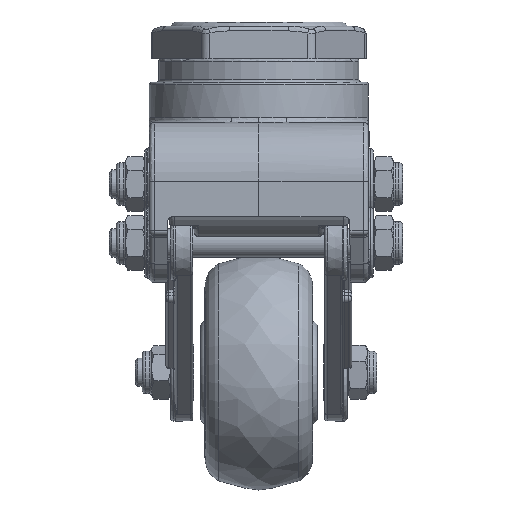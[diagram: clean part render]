
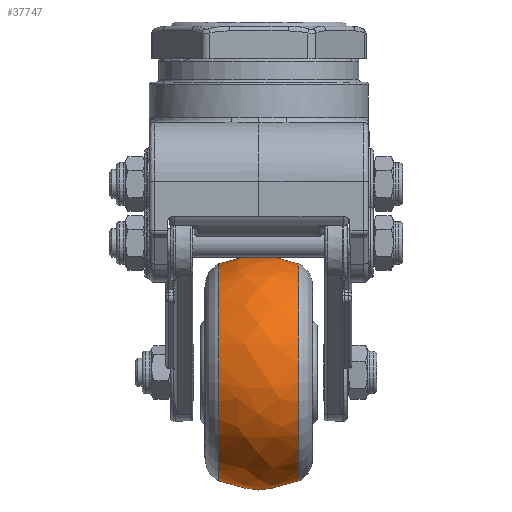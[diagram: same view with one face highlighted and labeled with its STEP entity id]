
A CAD part, left-side view. The second image highlights one B-rep face of the part: STEP entity #37747.
In plain terms, the highlighted free-form (B-spline) face has degree [2, 2] with [3, 9] control points.
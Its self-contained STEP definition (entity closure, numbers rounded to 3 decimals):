
#18=(
BOUNDED_SURFACE()
B_SPLINE_SURFACE(2,2,((#61259,#61260,#61261,#61262,#61263,#61264,#61265,
#61266,#61267),(#61268,#61269,#61270,#61271,#61272,#61273,#61274,#61275,
#61276),(#61277,#61278,#61279,#61280,#61281,#61282,#61283,#61284,#61285)),
 .UNSPECIFIED.,.F.,.T.,.F.)
B_SPLINE_SURFACE_WITH_KNOTS((3,3),(3,2,2,2,3),(-0.44,0.44),
(-3.142,-1.571,0.,1.571,3.142),
 .UNSPECIFIED.)
GEOMETRIC_REPRESENTATION_ITEM()
RATIONAL_B_SPLINE_SURFACE(((1.,0.707,1.,0.707,1.,
0.707,1.,0.707,1.),(0.905,0.64,
0.905,0.64,0.905,0.64,0.905,
0.64,0.905),(1.,0.707,1.,0.707,
1.,0.707,1.,0.707,1.)))
REPRESENTATION_ITEM('')
SURFACE()
);
#3341=FACE_OUTER_BOUND('',#5479,.T.);
#5479=EDGE_LOOP('',(#28600,#28601,#28602,#28603,#28604,#28605));
#7294=CIRCLE('',#40363,23.096);
#7295=CIRCLE('',#40364,23.096);
#7296=CIRCLE('',#40365,20.);
#7297=CIRCLE('',#40366,23.096);
#7298=CIRCLE('',#40367,23.096);
#16121=VERTEX_POINT('',#61286);
#16122=VERTEX_POINT('',#61287);
#16123=VERTEX_POINT('',#61290);
#16124=VERTEX_POINT('',#61292);
#20608=EDGE_CURVE('',#16121,#16122,#7294,.T.);
#20609=EDGE_CURVE('',#16122,#16121,#7295,.T.);
#20610=EDGE_CURVE('',#16122,#16123,#7296,.T.);
#20611=EDGE_CURVE('',#16123,#16124,#7297,.T.);
#20612=EDGE_CURVE('',#16124,#16123,#7298,.T.);
#28600=ORIENTED_EDGE('',*,*,#20608,.F.);
#28601=ORIENTED_EDGE('',*,*,#20609,.F.);
#28602=ORIENTED_EDGE('',*,*,#20610,.T.);
#28603=ORIENTED_EDGE('',*,*,#20611,.T.);
#28604=ORIENTED_EDGE('',*,*,#20612,.T.);
#28605=ORIENTED_EDGE('',*,*,#20610,.F.);
#37747=ADVANCED_FACE('',(#3341),#18,.F.);
#40363=AXIS2_PLACEMENT_3D('',#61288,#45740,#45741);
#40364=AXIS2_PLACEMENT_3D('',#61289,#45742,#45743);
#40365=AXIS2_PLACEMENT_3D('',#61291,#45744,#45745);
#40366=AXIS2_PLACEMENT_3D('',#61293,#45746,#45747);
#40367=AXIS2_PLACEMENT_3D('',#61294,#45748,#45749);
#45740=DIRECTION('center_axis',(0.,-1.,0.));
#45741=DIRECTION('ref_axis',(-0.412,0.,-0.911));
#45742=DIRECTION('center_axis',(0.,-1.,0.));
#45743=DIRECTION('ref_axis',(-0.412,0.,-0.911));
#45744=DIRECTION('center_axis',(-0.911,0.,
0.412));
#45745=DIRECTION('ref_axis',(0.412,0.,0.911));
#45746=DIRECTION('center_axis',(0.,-1.,0.));
#45747=DIRECTION('ref_axis',(-0.412,0.,-0.911));
#45748=DIRECTION('center_axis',(0.,-1.,0.));
#45749=DIRECTION('ref_axis',(-0.412,0.,-0.911));
#61259=CARTESIAN_POINT('Ctrl Pts',(-2.064,-52.19,
-74.71));
#61260=CARTESIAN_POINT('Ctrl Pts',(-23.108,-52.19,
-65.193));
#61261=CARTESIAN_POINT('Ctrl Pts',(-32.626,-52.19,
-86.237));
#61262=CARTESIAN_POINT('Ctrl Pts',(-42.143,-52.19,
-107.281));
#61263=CARTESIAN_POINT('Ctrl Pts',(-21.099,-52.19,
-116.799));
#61264=CARTESIAN_POINT('Ctrl Pts',(-0.055,-52.19,
-126.316));
#61265=CARTESIAN_POINT('Ctrl Pts',(9.463,-52.19,-105.272));
#61266=CARTESIAN_POINT('Ctrl Pts',(18.98,-52.19,-84.228));
#61267=CARTESIAN_POINT('Ctrl Pts',(-2.064,-52.19,
-74.71));
#61268=CARTESIAN_POINT('Ctrl Pts',(-0.413,-60.706,
-71.059));
#61269=CARTESIAN_POINT('Ctrl Pts',(-25.109,-60.706,
-59.89));
#61270=CARTESIAN_POINT('Ctrl Pts',(-36.277,-60.706,
-84.586));
#61271=CARTESIAN_POINT('Ctrl Pts',(-47.446,-60.706,
-109.282));
#61272=CARTESIAN_POINT('Ctrl Pts',(-22.75,-60.706,-120.45));
#61273=CARTESIAN_POINT('Ctrl Pts',(1.945,-60.706,-131.619));
#61274=CARTESIAN_POINT('Ctrl Pts',(13.114,-60.706,-106.923));
#61275=CARTESIAN_POINT('Ctrl Pts',(24.283,-60.706,-82.228));
#61276=CARTESIAN_POINT('Ctrl Pts',(-0.413,-60.706,
-71.059));
#61277=CARTESIAN_POINT('Ctrl Pts',(-2.064,-69.222,
-74.71));
#61278=CARTESIAN_POINT('Ctrl Pts',(-23.108,-69.222,-65.193));
#61279=CARTESIAN_POINT('Ctrl Pts',(-32.626,-69.222,
-86.237));
#61280=CARTESIAN_POINT('Ctrl Pts',(-42.143,-69.222,
-107.281));
#61281=CARTESIAN_POINT('Ctrl Pts',(-21.099,-69.222,
-116.799));
#61282=CARTESIAN_POINT('Ctrl Pts',(-0.055,-69.222,
-126.316));
#61283=CARTESIAN_POINT('Ctrl Pts',(9.463,-69.222,-105.272));
#61284=CARTESIAN_POINT('Ctrl Pts',(18.98,-69.222,-84.228));
#61285=CARTESIAN_POINT('Ctrl Pts',(-2.064,-69.222,
-74.71));
#61286=CARTESIAN_POINT('',(-21.099,-69.222,-116.799));
#61287=CARTESIAN_POINT('',(-2.064,-69.222,-74.71));
#61288=CARTESIAN_POINT('Origin',(-11.582,-69.222,-95.755));
#61289=CARTESIAN_POINT('Origin',(-11.582,-69.222,-95.755));
#61290=CARTESIAN_POINT('',(-2.064,-52.19,-74.71));
#61291=CARTESIAN_POINT('Origin',(-9.521,-60.706,-91.199));
#61292=CARTESIAN_POINT('',(-21.099,-52.19,-116.799));
#61293=CARTESIAN_POINT('Origin',(-11.582,-52.19,-95.755));
#61294=CARTESIAN_POINT('Origin',(-11.582,-52.19,-95.755));
